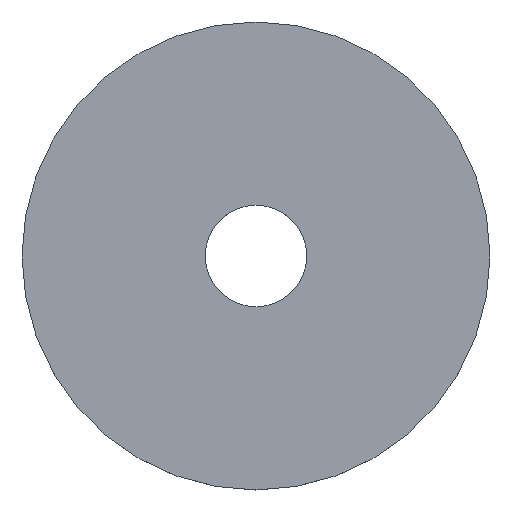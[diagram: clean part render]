
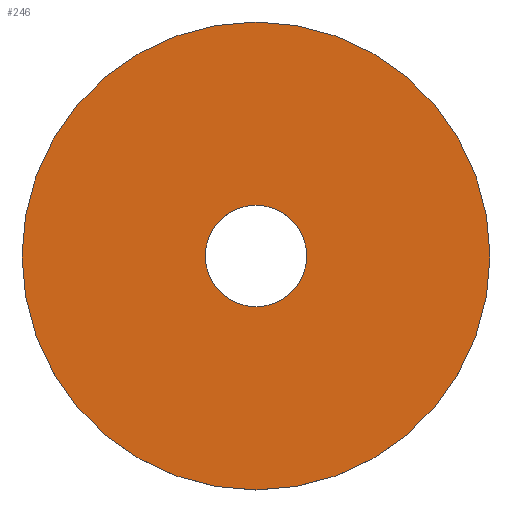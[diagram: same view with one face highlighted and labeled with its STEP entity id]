
A CAD part, top view. The second image highlights one B-rep face of the part: STEP entity #246.
In plain terms, the highlighted planar face has unit normal (0, 0, 1).
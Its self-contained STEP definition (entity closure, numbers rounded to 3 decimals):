
#2 = EDGE_LOOP ( 'NONE', ( #20, #232 ) ) ;
#4 = PLANE ( 'NONE',  #210 ) ;
#6 = VERTEX_POINT ( 'NONE', #27 ) ;
#20 = ORIENTED_EDGE ( 'NONE', *, *, #137, .T. ) ;
#22 = DIRECTION ( 'NONE',  ( 0., 0., 1. ) ) ;
#27 = CARTESIAN_POINT ( 'NONE',  ( -15., 0., 0.75 ) ) ;
#35 = CARTESIAN_POINT ( 'NONE',  ( 0., 0., 0.75 ) ) ;
#42 = CARTESIAN_POINT ( 'NONE',  ( 15., 0., 0.75 ) ) ;
#45 = VERTEX_POINT ( 'NONE', #42 ) ;
#47 = CIRCLE ( 'NONE', #159, 15. ) ;
#72 = VERTEX_POINT ( 'NONE', #88 ) ;
#73 = EDGE_CURVE ( 'NONE', #45, #6, #47, .T. ) ;
#88 = CARTESIAN_POINT ( 'NONE',  ( -3.25, 0., 0.75 ) ) ;
#103 = VERTEX_POINT ( 'NONE', #236 ) ;
#109 = DIRECTION ( 'NONE',  ( 1., 0., 0. ) ) ;
#110 = DIRECTION ( 'NONE',  ( 0., 0., 1. ) ) ;
#111 = CIRCLE ( 'NONE', #140, 3.25 ) ;
#113 = DIRECTION ( 'NONE',  ( 0., 0., 1. ) ) ;
#114 = DIRECTION ( 'NONE',  ( 0., 0., 1. ) ) ;
#117 = ORIENTED_EDGE ( 'NONE', *, *, #199, .F. ) ;
#118 = AXIS2_PLACEMENT_3D ( 'NONE', #242, #149, #203 ) ;
#125 = FACE_BOUND ( 'NONE', #158, .T. ) ;
#132 = DIRECTION ( 'NONE',  ( 1., 0., 0. ) ) ;
#137 = EDGE_CURVE ( 'NONE', #6, #45, #235, .T. ) ;
#140 = AXIS2_PLACEMENT_3D ( 'NONE', #35, #113, #132 ) ;
#147 = CIRCLE ( 'NONE', #173, 3.25 ) ;
#149 = DIRECTION ( 'NONE',  ( 0., 0., 1. ) ) ;
#158 = EDGE_LOOP ( 'NONE', ( #161, #117 ) ) ;
#159 = AXIS2_PLACEMENT_3D ( 'NONE', #184, #110, #109 ) ;
#161 = ORIENTED_EDGE ( 'NONE', *, *, #175, .F. ) ;
#173 = AXIS2_PLACEMENT_3D ( 'NONE', #185, #114, #183 ) ;
#174 = FACE_OUTER_BOUND ( 'NONE', #2, .T. ) ;
#175 = EDGE_CURVE ( 'NONE', #72, #103, #111, .T. ) ;
#183 = DIRECTION ( 'NONE',  ( 1., 0., 0. ) ) ;
#184 = CARTESIAN_POINT ( 'NONE',  ( 0., 0., 0.75 ) ) ;
#185 = CARTESIAN_POINT ( 'NONE',  ( 0., 0., 0.75 ) ) ;
#195 = CARTESIAN_POINT ( 'NONE',  ( 0., 0., 0.75 ) ) ;
#199 = EDGE_CURVE ( 'NONE', #103, #72, #147, .T. ) ;
#203 = DIRECTION ( 'NONE',  ( 1., 0., 0. ) ) ;
#210 = AXIS2_PLACEMENT_3D ( 'NONE', #195, #22, #231 ) ;
#231 = DIRECTION ( 'NONE',  ( 1., 0., 0. ) ) ;
#232 = ORIENTED_EDGE ( 'NONE', *, *, #73, .T. ) ;
#235 = CIRCLE ( 'NONE', #118, 15. ) ;
#236 = CARTESIAN_POINT ( 'NONE',  ( 3.25, 0., 0.75 ) ) ;
#242 = CARTESIAN_POINT ( 'NONE',  ( 0., 0., 0.75 ) ) ;
#246 = ADVANCED_FACE ( 'NONE', ( #174, #125 ), #4, .T. ) ;
